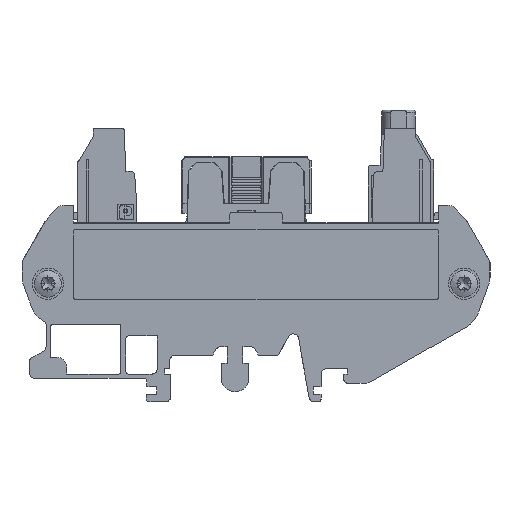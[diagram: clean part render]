
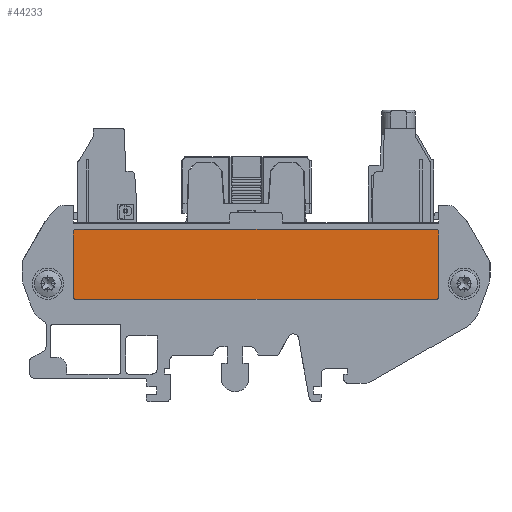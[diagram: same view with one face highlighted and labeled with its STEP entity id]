
A CAD part, left-side view. The second image highlights one B-rep face of the part: STEP entity #44233.
In plain terms, the highlighted planar face has unit normal (-1, 0, 0).
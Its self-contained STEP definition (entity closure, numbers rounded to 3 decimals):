
#1658=FACE_OUTER_BOUND('',#3921,.T.);
#3921=EDGE_LOOP('',(#29426,#29427,#29428,#29429,#29430,#29431,#29432,#29433));
#6190=CIRCLE('',#46561,0.5);
#6309=CIRCLE('',#46811,0.5);
#6311=CIRCLE('',#46817,0.5);
#6325=CIRCLE('',#46870,0.5);
#7975=LINE('',#63782,#12457);
#8349=LINE('',#64781,#12831);
#8352=LINE('',#64789,#12834);
#8423=LINE('',#64961,#12905);
#12457=VECTOR('',#51300,1000.);
#12831=VECTOR('',#52212,1000.);
#12834=VECTOR('',#52217,1000.);
#12905=VECTOR('',#52404,1000.);
#16994=VERTEX_POINT('',#63779);
#16995=VERTEX_POINT('',#63781);
#17011=VERTEX_POINT('',#63832);
#17349=VERTEX_POINT('',#64772);
#17351=VERTEX_POINT('',#64779);
#17354=VERTEX_POINT('',#64786);
#17355=VERTEX_POINT('',#64788);
#17398=VERTEX_POINT('',#64956);
#21466=EDGE_CURVE('',#16994,#16995,#7975,.T.);
#21492=EDGE_CURVE('',#16995,#17011,#6190,.T.);
#21964=EDGE_CURVE('',#17349,#16994,#6309,.T.);
#21967=EDGE_CURVE('',#17351,#17349,#8349,.T.);
#21970=EDGE_CURVE('',#17355,#17354,#8352,.T.);
#21973=EDGE_CURVE('',#17355,#17351,#6311,.T.);
#22056=EDGE_CURVE('',#17398,#17354,#6325,.T.);
#22057=EDGE_CURVE('',#17011,#17398,#8423,.T.);
#29426=ORIENTED_EDGE('',*,*,#22057,.F.);
#29427=ORIENTED_EDGE('',*,*,#21492,.F.);
#29428=ORIENTED_EDGE('',*,*,#21466,.F.);
#29429=ORIENTED_EDGE('',*,*,#21964,.F.);
#29430=ORIENTED_EDGE('',*,*,#21967,.F.);
#29431=ORIENTED_EDGE('',*,*,#21973,.F.);
#29432=ORIENTED_EDGE('',*,*,#21970,.T.);
#29433=ORIENTED_EDGE('',*,*,#22056,.F.);
#40333=PLANE('',#46872);
#44233=ADVANCED_FACE('',(#1658),#40333,.F.);
#46561=AXIS2_PLACEMENT_3D('',#63833,#51351,#51352);
#46811=AXIS2_PLACEMENT_3D('',#64774,#52204,#52205);
#46817=AXIS2_PLACEMENT_3D('',#64793,#52223,#52224);
#46870=AXIS2_PLACEMENT_3D('',#64958,#52398,#52399);
#46872=AXIS2_PLACEMENT_3D('',#64960,#52402,#52403);
#51300=DIRECTION('',(0.,0.,1.));
#51351=DIRECTION('center_axis',(1.,0.,0.));
#51352=DIRECTION('ref_axis',(0.,-1.,0.));
#52204=DIRECTION('center_axis',(1.,0.,0.));
#52205=DIRECTION('ref_axis',(0.,-1.,0.));
#52212=DIRECTION('',(0.,1.,0.));
#52217=DIRECTION('',(0.,0.,1.));
#52223=DIRECTION('center_axis',(1.,0.,0.));
#52224=DIRECTION('ref_axis',(0.,-1.,0.));
#52398=DIRECTION('center_axis',(1.,0.,0.));
#52399=DIRECTION('ref_axis',(0.,-1.,0.));
#52402=DIRECTION('center_axis',(1.,0.,0.));
#52403=DIRECTION('ref_axis',(0.,1.,0.));
#52404=DIRECTION('',(0.,-1.,0.));
#63779=CARTESIAN_POINT('',(-1.3,71.,-14.2));
#63781=CARTESIAN_POINT('',(-1.3,71.,-1.8));
#63782=CARTESIAN_POINT('',(-1.3,71.,-14.2));
#63832=CARTESIAN_POINT('',(-1.3,70.5,-1.3));
#63833=CARTESIAN_POINT('Origin',(-1.3,70.5,-1.8));
#64772=CARTESIAN_POINT('',(-1.3,70.5,-14.7));
#64774=CARTESIAN_POINT('Origin',(-1.3,70.5,-14.2));
#64779=CARTESIAN_POINT('',(-1.3,1.5,-14.7));
#64781=CARTESIAN_POINT('',(-1.3,1.5,-14.7));
#64786=CARTESIAN_POINT('',(-1.3,1.,-1.8));
#64788=CARTESIAN_POINT('',(-1.3,1.,-14.2));
#64789=CARTESIAN_POINT('',(-1.3,1.,-14.2));
#64793=CARTESIAN_POINT('Origin',(-1.3,1.5,-14.2));
#64956=CARTESIAN_POINT('',(-1.3,1.5,-1.3));
#64958=CARTESIAN_POINT('Origin',(-1.3,1.5,-1.8));
#64960=CARTESIAN_POINT('Origin',(-1.3,56.,-33.65));
#64961=CARTESIAN_POINT('',(-1.3,70.5,-1.3));
